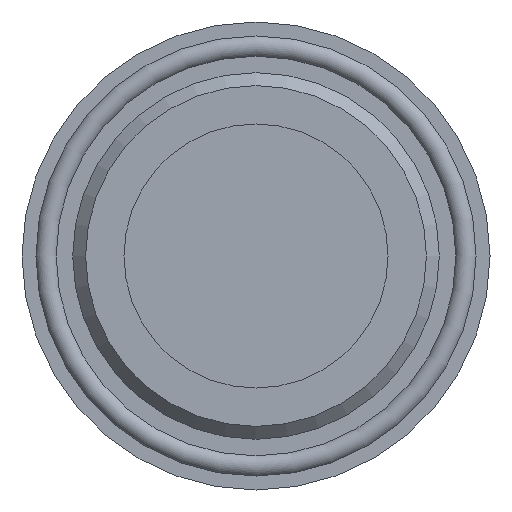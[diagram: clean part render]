
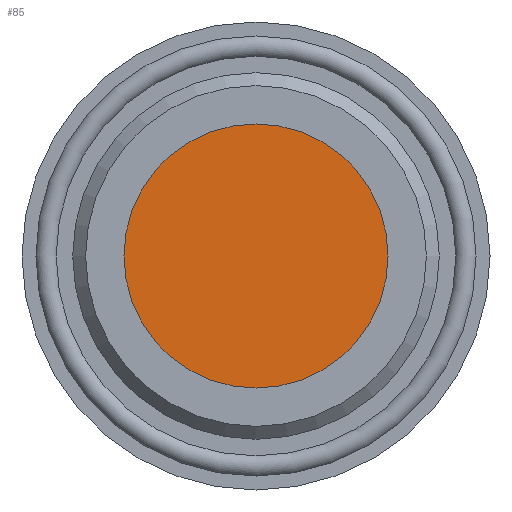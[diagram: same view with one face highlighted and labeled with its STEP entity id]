
A CAD part, front view. The second image highlights one B-rep face of the part: STEP entity #85.
In plain terms, the highlighted planar face has unit normal (0, -1, 0).
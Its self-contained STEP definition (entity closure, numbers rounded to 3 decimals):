
#85 = ADVANCED_FACE( '', ( #155 ), #156, .T. );
#155 = FACE_OUTER_BOUND( '', #272, .T. );
#156 = PLANE( '', #273 );
#272 = EDGE_LOOP( '', ( #424 ) );
#273 = AXIS2_PLACEMENT_3D( '', #425, #426, #427 );
#424 = ORIENTED_EDGE( '', *, *, #774, .T. );
#425 = CARTESIAN_POINT( '', ( 0., 21., 0. ) );
#426 = DIRECTION( '', ( 0., -1., 0. ) );
#427 = DIRECTION( '', ( 0., 0., -1. ) );
#774 = EDGE_CURVE( '', #912, #912, #913, .T. );
#912 = VERTEX_POINT( '', #1162 );
#913 = CIRCLE( '', #1163, 15.1 );
#1162 = CARTESIAN_POINT( '', ( 0., 21., -15.1 ) );
#1163 = AXIS2_PLACEMENT_3D( '', #1479, #1480, #1481 );
#1479 = CARTESIAN_POINT( '', ( 0., 21., 0. ) );
#1480 = DIRECTION( '', ( 0., -1., 0. ) );
#1481 = DIRECTION( '', ( 0., 0., -1. ) );
